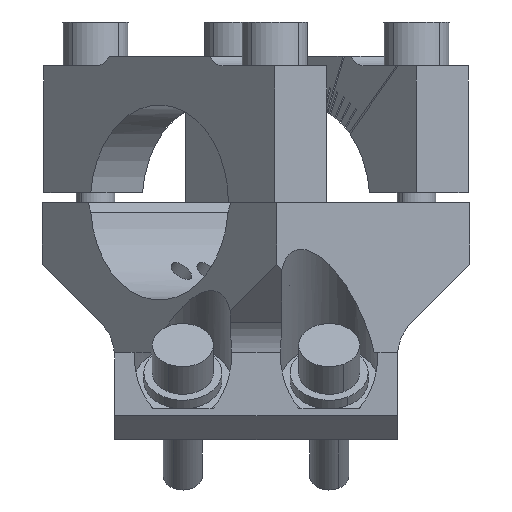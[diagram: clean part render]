
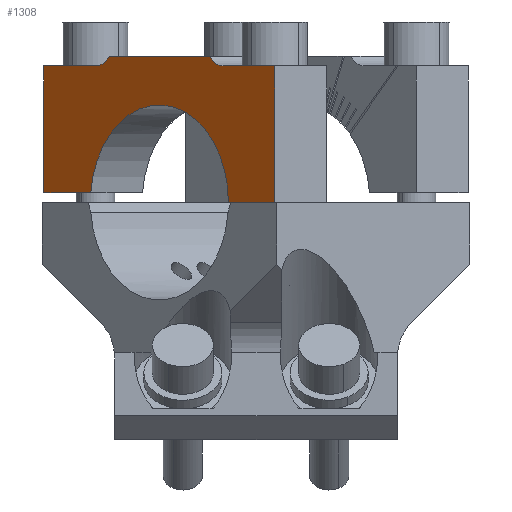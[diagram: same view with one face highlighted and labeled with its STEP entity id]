
A CAD part, front view. The second image highlights one B-rep face of the part: STEP entity #1308.
In plain terms, the highlighted planar face has unit normal (-0.707, -0.707, 0).
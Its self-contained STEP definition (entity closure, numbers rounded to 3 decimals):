
#1308=ADVANCED_FACE('Solid.179',(#2777),#2778,.T.);
#2777=FACE_OUTER_BOUND('',#4467,.T.);
#2778=PLANE('',#4468);
#4467=EDGE_LOOP('',(#7983,#7984,#7985,#7986,#7987,#7988,#7989,#7990,#7991,#7992));
#4468=AXIS2_PLACEMENT_3D('',#7993,#7994,#7995);
#7983=ORIENTED_EDGE('',*,*,#10886,.T.);
#7984=ORIENTED_EDGE('',*,*,#10869,.T.);
#7985=ORIENTED_EDGE('',*,*,#10887,.T.);
#7986=ORIENTED_EDGE('',*,*,#10874,.T.);
#7987=ORIENTED_EDGE('',*,*,#10888,.T.);
#7988=ORIENTED_EDGE('',*,*,#10879,.T.);
#7989=ORIENTED_EDGE('',*,*,#10889,.T.);
#7990=ORIENTED_EDGE('',*,*,#10884,.T.);
#7991=ORIENTED_EDGE('',*,*,#10890,.T.);
#7992=ORIENTED_EDGE('',*,*,#10891,.T.);
#7993=CARTESIAN_POINT('',(-19.799,-19.799,50.));
#7994=DIRECTION('',(-0.707,-0.707,0.));
#7995=DIRECTION('',(0.707,-0.707,0.));
#10869=EDGE_CURVE('',#13190,#13195,#13197,.T.);
#10874=EDGE_CURVE('',#13199,#13204,#13206,.F.);
#10879=EDGE_CURVE('',#13208,#13213,#13215,.F.);
#10884=EDGE_CURVE('',#13217,#13222,#13224,.T.);
#10886=EDGE_CURVE('',#13226,#13190,#13227,.T.);
#10887=EDGE_CURVE('',#13195,#13199,#13228,.T.);
#10888=EDGE_CURVE('',#13204,#13208,#13229,.T.);
#10889=EDGE_CURVE('',#13213,#13217,#13230,.T.);
#10890=EDGE_CURVE('',#13222,#13231,#13232,.T.);
#10891=EDGE_CURVE('',#13231,#13226,#13233,.F.);
#13190=VERTEX_POINT('',#17840);
#13195=VERTEX_POINT('',#17847);
#13197=LINE('',#17850,#17851);
#13199=VERTEX_POINT('',#17853);
#13204=VERTEX_POINT('',#17859);
#13206=CIRCLE('',#17862,5.0);
#13208=VERTEX_POINT('',#17864);
#13213=VERTEX_POINT('',#17870);
#13215=CIRCLE('',#17873,5.0);
#13217=VERTEX_POINT('',#17875);
#13222=VERTEX_POINT('',#17882);
#13224=LINE('',#17885,#17886);
#13226=VERTEX_POINT('',#17888);
#13227=LINE('',#17889,#17890);
#13228=LINE('',#17891,#17892);
#13229=LINE('',#17893,#17894);
#13230=LINE('',#17895,#17896);
#13231=VERTEX_POINT('',#17897);
#13232=LINE('',#17898,#17899);
#13233=CIRCLE('',#17900,20.0);
#17840=CARTESIAN_POINT('',(3.889,-43.487,50.));
#17847=CARTESIAN_POINT('',(3.889,-43.487,78.));
#17850=CARTESIAN_POINT('',(3.889,-43.487,64.));
#17851=VECTOR('',#20303,1.0);
#17853=CARTESIAN_POINT('',(-6.718,-32.88,78.));
#17859=CARTESIAN_POINT('',(-9.546,-30.052,80.));
#17862=AXIS2_PLACEMENT_3D('',#20309,#20310,#20311);
#17864=CARTESIAN_POINT('',(-30.052,-9.546,80.));
#17870=CARTESIAN_POINT('',(-32.88,-6.718,78.));
#17873=AXIS2_PLACEMENT_3D('',#20317,#20318,#20319);
#17875=CARTESIAN_POINT('',(-43.487,3.889,78.0));
#17882=CARTESIAN_POINT('',(-43.487,3.889,52.));
#17885=CARTESIAN_POINT('',(-43.487,3.889,65.));
#17886=VECTOR('',#20323,1.0);
#17888=CARTESIAN_POINT('',(-5.657,-33.941,50.));
#17889=CARTESIAN_POINT('',(-0.884,-38.714,50.));
#17890=VECTOR('',#20324,1.0);
#17891=CARTESIAN_POINT('',(-1.414,-38.184,78.));
#17892=VECTOR('',#20325,1.0);
#17893=CARTESIAN_POINT('',(-19.799,-19.799,80.));
#17894=VECTOR('',#20326,1.0);
#17895=CARTESIAN_POINT('',(-38.184,-1.414,78.));
#17896=VECTOR('',#20327,1.0);
#17897=CARTESIAN_POINT('',(-33.87,-5.728,52.));
#17898=CARTESIAN_POINT('',(-38.679,-0.919,52.));
#17899=VECTOR('',#20328,1.0);
#17900=AXIS2_PLACEMENT_3D('',#20329,#20330,#20331);
#20303=DIRECTION('',(0.,0.,1.0));
#20309=CARTESIAN_POINT('',(-6.718,-32.88,83.));
#20310=DIRECTION('',(-0.707,-0.707,0.));
#20311=DIRECTION('',(0.707,-0.707,0.));
#20317=CARTESIAN_POINT('',(-32.88,-6.718,83.));
#20318=DIRECTION('',(-0.707,-0.707,0.));
#20319=DIRECTION('',(0.707,-0.707,0.));
#20323=DIRECTION('',(0.,0.,-1.0));
#20324=DIRECTION('',(0.707,-0.707,0.));
#20325=DIRECTION('',(-0.707,0.707,0.));
#20326=DIRECTION('',(-0.707,0.707,0.));
#20327=DIRECTION('',(-0.707,0.707,0.));
#20328=DIRECTION('',(0.707,-0.707,0.));
#20329=CARTESIAN_POINT('',(-19.799,-19.799,50.));
#20330=DIRECTION('',(-0.707,-0.707,0.));
#20331=DIRECTION('',(0.707,-0.707,0.));
